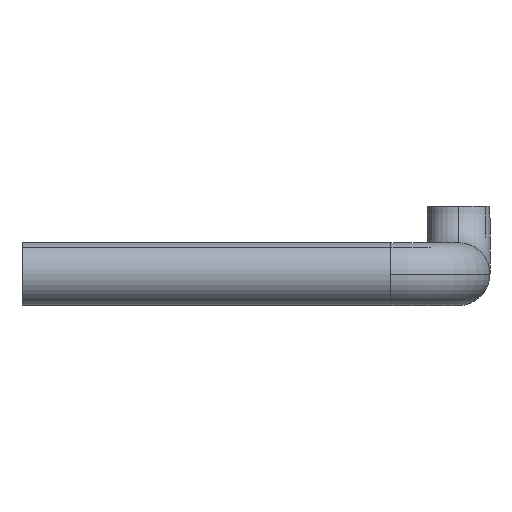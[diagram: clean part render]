
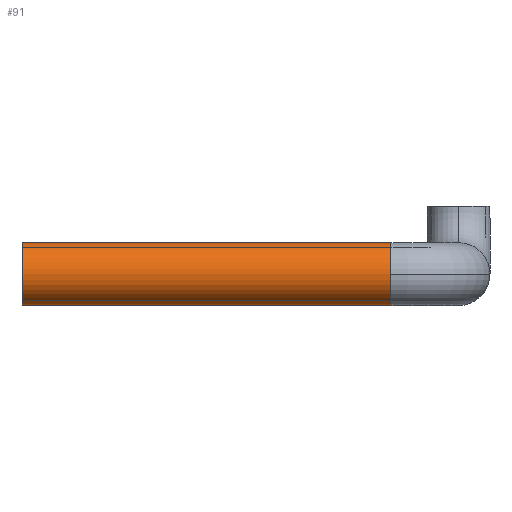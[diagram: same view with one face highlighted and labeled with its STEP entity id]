
A CAD part, left-side view. The second image highlights one B-rep face of the part: STEP entity #91.
In plain terms, the highlighted cylindrical face has radius 13.45 mm (diameter 26.9 mm), a partial arc.
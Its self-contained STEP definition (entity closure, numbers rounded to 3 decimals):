
#10 = VERTEX_POINT ( 'NONE', #82 ) ;
#21 = VECTOR ( 'NONE', #329, 1000. ) ;
#27 = ORIENTED_EDGE ( 'NONE', *, *, #143, .F. ) ;
#42 = VERTEX_POINT ( 'NONE', #105 ) ;
#52 = CARTESIAN_POINT ( 'NONE',  ( -20350., 1839., -4799.3 ) ) ;
#56 = DIRECTION ( 'NONE',  ( 0., -1., 0. ) ) ;
#82 = CARTESIAN_POINT ( 'NONE',  ( -20350., 1839., -4772.4 ) ) ;
#91 = ADVANCED_FACE ( 'NONE', ( #197 ), #300, .T. ) ;
#95 = ORIENTED_EDGE ( 'NONE', *, *, #109, .T. ) ;
#96 = DIRECTION ( 'NONE',  ( 0., -1., 0. ) ) ;
#105 = CARTESIAN_POINT ( 'NONE',  ( -20363.45, 1839., -4785.85 ) ) ;
#106 = AXIS2_PLACEMENT_3D ( 'NONE', #208, #255, #380 ) ;
#109 = EDGE_CURVE ( 'NONE', #10, #408, #470, .T. ) ;
#121 = CARTESIAN_POINT ( 'NONE',  ( -20350., 1997., -4799.3 ) ) ;
#143 = EDGE_CURVE ( 'NONE', #42, #302, #444, .T. ) ;
#162 = CIRCLE ( 'NONE', #240, 13.45 ) ;
#163 = CARTESIAN_POINT ( 'NONE',  ( -20350., 1839., -4785.85 ) ) ;
#181 = AXIS2_PLACEMENT_3D ( 'NONE', #163, #239, #426 ) ;
#197 = FACE_OUTER_BOUND ( 'NONE', #362, .T. ) ;
#208 = CARTESIAN_POINT ( 'NONE',  ( -20350., 1839., -4785.85 ) ) ;
#209 = CARTESIAN_POINT ( 'NONE',  ( -20350., 1839., -4785.85 ) ) ;
#234 = CARTESIAN_POINT ( 'NONE',  ( -20350., 1839., -4772.4 ) ) ;
#239 = DIRECTION ( 'NONE',  ( 0., -1., 0. ) ) ;
#240 = AXIS2_PLACEMENT_3D ( 'NONE', #251, #96, #437 ) ;
#251 = CARTESIAN_POINT ( 'NONE',  ( -20350., 1997., -4785.85 ) ) ;
#253 = ORIENTED_EDGE ( 'NONE', *, *, #601, .F. ) ;
#255 = DIRECTION ( 'NONE',  ( 0., 1., 0. ) ) ;
#261 = AXIS2_PLACEMENT_3D ( 'NONE', #209, #56, #289 ) ;
#264 = ORIENTED_EDGE ( 'NONE', *, *, #587, .T. ) ;
#289 = DIRECTION ( 'NONE',  ( 0., 0., -1. ) ) ;
#300 = CYLINDRICAL_SURFACE ( 'NONE', #106, 13.45 ) ;
#302 = VERTEX_POINT ( 'NONE', #396 ) ;
#317 = VECTOR ( 'NONE', #430, 1000. ) ;
#329 = DIRECTION ( 'NONE',  ( 0., 1., 0. ) ) ;
#362 = EDGE_LOOP ( 'NONE', ( #457, #95, #264, #253, #27 ) ) ;
#380 = DIRECTION ( 'NONE',  ( 0., 0., -1. ) ) ;
#383 = VERTEX_POINT ( 'NONE', #121 ) ;
#396 = CARTESIAN_POINT ( 'NONE',  ( -20350., 1839., -4799.3 ) ) ;
#408 = VERTEX_POINT ( 'NONE', #417 ) ;
#417 = CARTESIAN_POINT ( 'NONE',  ( -20350., 1997., -4772.4 ) ) ;
#426 = DIRECTION ( 'NONE',  ( 0., 0., -1. ) ) ;
#430 = DIRECTION ( 'NONE',  ( 0., 1., 0. ) ) ;
#437 = DIRECTION ( 'NONE',  ( 0., 0., -1. ) ) ;
#444 = CIRCLE ( 'NONE', #181, 13.45 ) ;
#457 = ORIENTED_EDGE ( 'NONE', *, *, #533, .F. ) ;
#470 = LINE ( 'NONE', #234, #21 ) ;
#476 = LINE ( 'NONE', #52, #317 ) ;
#533 = EDGE_CURVE ( 'NONE', #10, #42, #588, .T. ) ;
#587 = EDGE_CURVE ( 'NONE', #408, #383, #162, .T. ) ;
#588 = CIRCLE ( 'NONE', #261, 13.45 ) ;
#601 = EDGE_CURVE ( 'NONE', #302, #383, #476, .T. ) ;
